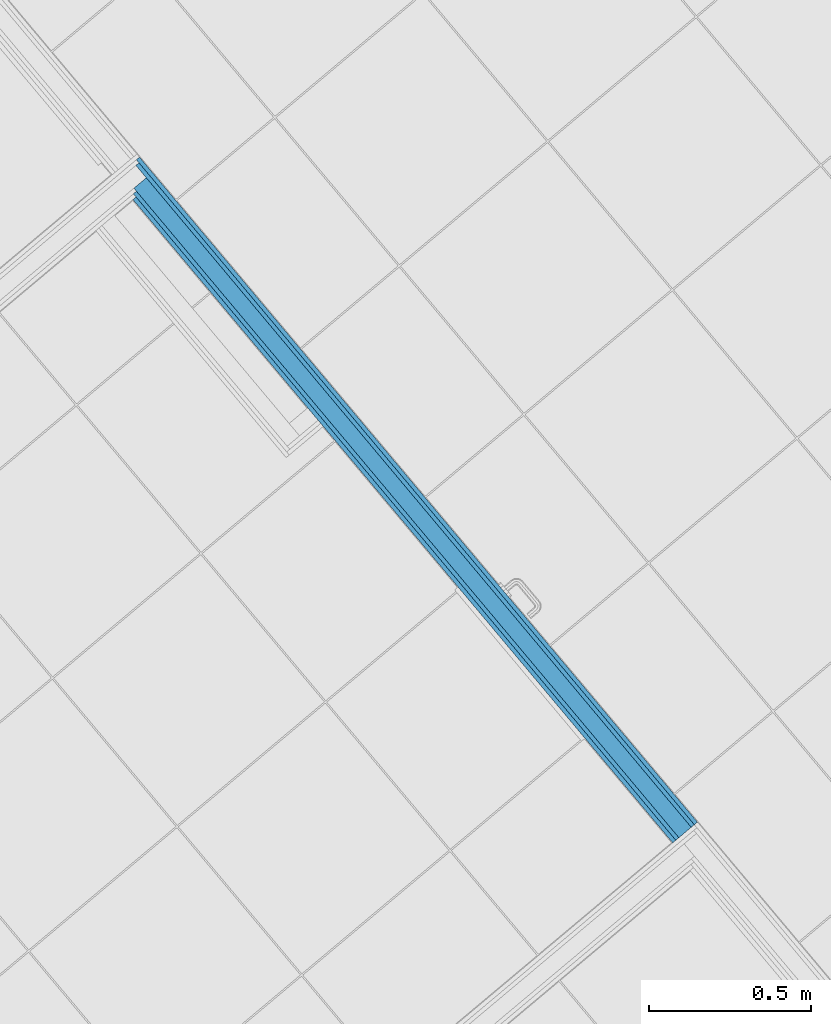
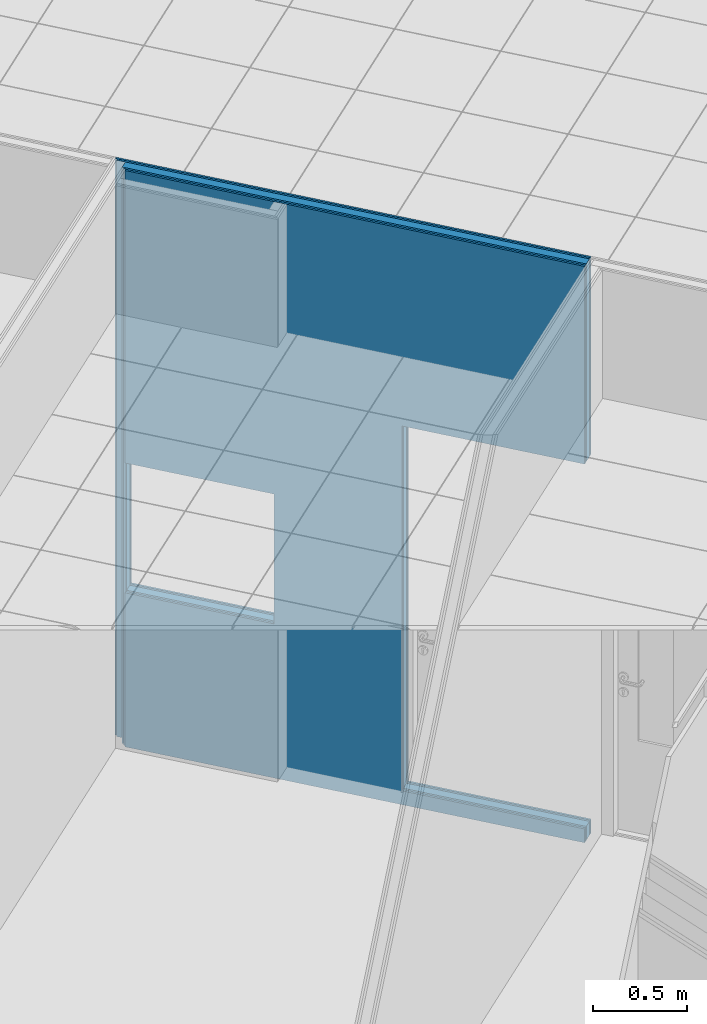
# One storey, part 49 of 338: 5 building element parts, 2 openings, 1 element without a shape of its own.
"""IFC2X3 building model written with IfcOpenShell, lengths in millimetres."""

from ifc_helpers import new_model, entity, si_unit, converted_unit, derived_unit, money_unit, direction, frame, origin_with_axes, place, context, subcontext, project, spatial, faceted_brep, material, type_object, element, aggregate, save


model = new_model("IFC2X3")

# Units and contexts
model_context = context("Model", 3, precision=0.01, world=origin_with_axes(), true_north=direction((0.0, 1.0)))
plan_context = context("Plan", 3, precision=0.01, world=origin_with_axes(), true_north=direction((0.0, 1.0)))
body_context = subcontext(model_context, "Body", "Model", "MODEL_VIEW")
ifc_project = project(units=[si_unit("LENGTHUNIT", "METRE", prefix="MILLI"), si_unit("AREAUNIT", "SQUARE_METRE"), si_unit("VOLUMEUNIT", "CUBIC_METRE"), converted_unit("PLANEANGLEUNIT", "DEGREE", entity("IfcPlaneAngleMeasure", 0.0174532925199), si_unit("PLANEANGLEUNIT", "RADIAN"), dimensions=[0, 0, 0, 0, 0, 0, 0]), money_unit("EUR"), converted_unit("TIMEUNIT", "Year", entity("IfcTimeMeasure", 31556926.0), si_unit("TIMEUNIT", "SECOND"), dimensions=[0, 0, 1, 0, 0, 0, 0]), si_unit("MASSUNIT", "GRAM", prefix="KILO"), si_unit("THERMODYNAMICTEMPERATUREUNIT", "DEGREE_CELSIUS"), si_unit("LUMINOUSINTENSITYUNIT", "LUMEN"), si_unit("ENERGYUNIT", "JOULE", prefix="MEGA"), derived_unit("THERMALCONDUCTANCEUNIT", [(si_unit("POWERUNIT", "WATT"), 1), (si_unit("LENGTHUNIT", "METRE"), -1), (si_unit("THERMODYNAMICTEMPERATUREUNIT", "KELVIN"), -1)]), derived_unit("SPECIFICHEATCAPACITYUNIT", [(si_unit("ENERGYUNIT", "JOULE"), 1), (si_unit("MASSUNIT", "GRAM", prefix="KILO"), -1), (si_unit("THERMODYNAMICTEMPERATUREUNIT", "KELVIN"), -1)]), derived_unit("MASSDENSITYUNIT", [(si_unit("MASSUNIT", "GRAM", prefix="KILO"), 1), (si_unit("VOLUMEUNIT", "CUBIC_METRE"), -1)])], contexts=[model_context, plan_context])

# Site, building, storey
site_placement = place(None, origin_with_axes())
site = spatial("IfcSite", under=ifc_project, at=site_placement, Name="Fortuinstraat Woensdrecht", CompositionType="ELEMENT")
building_placement = place(site_placement, origin_with_axes())
building = spatial("IfcBuilding", under=site, at=building_placement, Name="IKC Fortuna", CompositionType="ELEMENT")
storey_placement = place(building_placement, origin_with_axes())
storey = spatial("IfcBuildingStorey", under=building, at=storey_placement, Name="00 begane grond", CompositionType="ELEMENT", Elevation=0.0)

# Wall, openings, building element parts
wall_type = type_object("IfcWallType", Name="MS100 2.50.2A 100", PredefinedType="NOTDEFINED")
wall_placement = place(storey_placement, frame((11231.4886538, -6617.81216401, 1360.0), z_axis=(0.0, 0.0, 1.0), x_axis=(-0.642787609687, 0.766044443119, 0.0)))
wall = element("IfcWall", 1, at=wall_placement, inside=storey, type_object=wall_type, Name="22_Wand_Binnenwand")
opening_1_placement = place(wall_placement, frame((517.0, 0.0, 90.0), z_axis=(0.0, 0.0, 1.0), x_axis=(1.0, 0.0, 0.0)))
element("IfcOpeningElement", 2, at=opening_1_placement, cuts=wall, Name="32_Deur_h.01c", context=body_context, shape_type="Brep", body=[
    faceted_brep([(-517.0, 100.0, 2367.0), (-517.0, 100.0, 0.0), (-517.0, -200.0, 0.0), (-517.0, -200.0, 2367.0), (517.0, 100.0, 2367.0), (517.0, 100.0, 0.0), (517.0, -200.0, 0.0), (517.0, -200.0, 2367.0)], [[[0, 1, 2, 3]], [[0, 4, 5, 1]], [[1, 5, 6, 2]], [[3, 2, 6, 7]], [[4, 0, 3, 7]], [[5, 4, 7, 6]]]),
])
opening_2_placement = place(wall_placement, frame((12288.9999789, 4349.97180896, -1360.0), z_axis=(0.0, 0.0, 1.0), x_axis=(-0.642787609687, -0.766044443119, 0.0)))
element("IfcOpeningElement", 3, at=opening_2_placement, cuts=wall, Name="_Lege opening_Opening-x", context=body_context, shape_type="Brep", body=[
    faceted_brep([(12979.2788683, -2856.46196845, 2360.0), (12979.2788683, -2856.46196845, 3202.0), (7735.90822489, -7256.17234145, 3202.0), (7735.90822489, -7256.17234145, 2360.0), (12979.2788683, -1757.30903083, 2360.0), (12979.2788683, -1757.30903083, 3202.0), (7735.90822489, -6157.01940383, 3202.0), (7735.90822489, -6157.01940383, 2360.0)], [[[0, 1, 2, 3]], [[0, 4, 5, 1]], [[1, 5, 6, 2]], [[3, 2, 6, 7]], [[4, 0, 3, 7]], [[5, 4, 7, 6]]]),
])
ifc_material_1 = material(Name="Gipsplaat")
building_element_part_1_placement = place(wall_placement, origin_with_axes())
building_element_part_1 = element("IfcBuildingElementPart", 4, at=building_element_part_1_placement, material=ifc_material_1, Name="Gipsplaat", context=body_context, shape_type="Brep", body=[
    faceted_brep([(0.0, 100.0, 2457.0), (0.0, 87.5, 2457.0), (0.0, 87.5, 3740.0), (0.0, 100.0, 3740.0), (1034.0, 87.5, 2457.0), (1034.0, 100.0, 2457.0), (1034.0, 87.5, 90.0), (0.0, 87.5, 90.0), (0.0, 87.5, 0.0), (2599.90352174, 87.5, 0.0), (2599.90352174, 87.5, 1000.0), (1757.90352174, 87.5, 1000.0), (1757.90352174, 87.5, 1842.0), (2599.90352174, 87.5, 1842.0), (2599.90352174, 87.5, 3740.0), (2599.90352174, 100.0, 3740.0), (2599.90352174, 100.0, 1842.0), (1757.90352174, 100.0, 1842.0), (1757.90352174, 100.0, 1000.0), (2599.90352174, 100.0, 1000.0), (2599.90352174, 100.0, 0.0), (0.0, 100.0, 0.0), (0.0, 100.0, 90.0), (1034.0, 100.0, 90.0)], [[[0, 1, 2, 3]], [[4, 1, 0, 5]], [[6, 7, 8, 9, 10, 11, 12, 13, 14, 2, 1, 4]], [[3, 2, 14, 15]], [[5, 0, 3, 15, 16, 17, 18, 19, 20, 21, 22, 23]], [[6, 4, 5, 23]], [[22, 7, 6, 23]], [[7, 22, 21, 8]], [[8, 21, 20, 9]], [[19, 10, 9, 20]], [[10, 19, 18, 11]], [[11, 18, 17, 12]], [[12, 17, 16, 13]], [[14, 13, 16, 15]]]),
])
building_element_part_2_placement = place(wall_placement, origin_with_axes())
building_element_part_2 = element("IfcBuildingElementPart", 5, at=building_element_part_2_placement, material=ifc_material_1, Name="Gipsplaat", context=body_context, shape_type="Brep", body=[
    faceted_brep([(0.0, 87.5, 2457.0), (0.0, 75.0, 2457.0), (0.0, 75.0, 3740.0), (0.0, 87.5, 3740.0), (1034.0, 75.0, 2457.0), (1034.0, 87.5, 2457.0), (1034.0, 75.0, 90.0), (0.0, 75.0, 90.0), (0.0, 75.0, 0.0), (2612.40352174, 75.0, 0.0), (2612.40352174, 75.0, 3740.0), (1757.90352174, 75.0, 1000.0), (1757.90352174, 75.0, 1842.0), (2599.90352174, 75.0, 1842.0), (2599.90352174, 75.0, 1000.0), (2612.40352174, 87.5, 3740.0), (2612.40352174, 87.5, 0.0), (0.0, 87.5, 0.0), (0.0, 87.5, 90.0), (1034.0, 87.5, 90.0), (2599.90352174, 87.5, 1842.0), (1757.90352174, 87.5, 1842.0), (1757.90352174, 87.5, 1000.0), (2599.90352174, 87.5, 1000.0)], [[[0, 1, 2, 3]], [[4, 1, 0, 5]], [[6, 7, 8, 9, 10, 2, 1, 4], [11, 12, 13, 14]], [[3, 2, 10, 15]], [[5, 0, 3, 15, 16, 17, 18, 19], [20, 21, 22, 23]], [[6, 4, 5, 19]], [[18, 7, 6, 19]], [[7, 18, 17, 8]], [[8, 17, 16, 9]], [[15, 10, 9, 16]], [[11, 22, 21, 12]], [[12, 21, 20, 13]], [[13, 20, 23, 14]], [[14, 23, 22, 11]]]),
])
ifc_material_2 = material(Name="Isolatie - Steenwol LSW")
building_element_part_3_placement = place(wall_placement, origin_with_axes())
building_element_part_3 = element("IfcBuildingElementPart", 6, at=building_element_part_3_placement, material=ifc_material_2, Name="Isolatie - Steenwol LSW", context=body_context, shape_type="Brep", body=[
    faceted_brep([(0.0, 75.0, 2457.0), (0.0, 25.0, 2457.0), (0.0, 25.0, 3740.0), (0.0, 75.0, 3740.0), (1034.0, 25.0, 2457.0), (1034.0, 75.0, 2457.0), (1034.0, 25.0, 90.0), (0.0, 25.0, 90.0), (0.0, 25.0, 0.0), (2624.90352174, 25.0, 0.0), (2624.90352174, 25.0, 3740.0), (1757.90352174, 25.0, 1000.0), (1757.90352174, 25.0, 1842.0), (2599.90352174, 25.0, 1842.0), (2599.90352174, 25.0, 1000.0), (2624.90352174, 75.0, 3740.0), (2624.90352174, 75.0, 0.0), (0.0, 75.0, 0.0), (0.0, 75.0, 90.0), (1034.0, 75.0, 90.0), (2599.90352174, 75.0, 1842.0), (1757.90352174, 75.0, 1842.0), (1757.90352174, 75.0, 1000.0), (2599.90352174, 75.0, 1000.0)], [[[0, 1, 2, 3]], [[4, 1, 0, 5]], [[6, 7, 8, 9, 10, 2, 1, 4], [11, 12, 13, 14]], [[3, 2, 10, 15]], [[5, 0, 3, 15, 16, 17, 18, 19], [20, 21, 22, 23]], [[6, 4, 5, 19]], [[18, 7, 6, 19]], [[7, 18, 17, 8]], [[8, 17, 16, 9]], [[15, 10, 9, 16]], [[11, 22, 21, 12]], [[12, 21, 20, 13]], [[13, 20, 23, 14]], [[14, 23, 22, 11]]]),
])
building_element_part_4_placement = place(wall_placement, origin_with_axes())
building_element_part_4 = element("IfcBuildingElementPart", 7, at=building_element_part_4_placement, material=ifc_material_1, Name="Gipsplaat", context=body_context, shape_type="Brep", body=[
    faceted_brep([(0.0, 25.0, 2457.0), (0.0, 12.5, 2457.0), (0.0, 12.5, 3740.0), (0.0, 25.0, 3740.0), (1034.0, 12.5, 2457.0), (1034.0, 25.0, 2457.0), (1034.0, 12.5, 90.0), (0.0, 12.5, 90.0), (0.0, 12.5, 0.0), (2674.90352174, 12.5, 0.0), (2674.90352174, 12.5, 3740.0), (2599.90352174, 12.5, 1000.0), (1757.90352174, 12.5, 1000.0), (1757.90352174, 12.5, 1842.0), (2599.90352174, 12.5, 1842.0), (2674.90352174, 25.0, 3740.0), (2674.90352174, 25.0, 0.0), (0.0, 25.0, 0.0), (0.0, 25.0, 90.0), (1034.0, 25.0, 90.0), (2599.90352174, 25.0, 1000.0), (2599.90352174, 25.0, 1842.0), (1757.90352174, 25.0, 1842.0), (1757.90352174, 25.0, 1000.0)], [[[0, 1, 2, 3]], [[4, 1, 0, 5]], [[6, 7, 8, 9, 10, 2, 1, 4], [11, 12, 13, 14]], [[15, 3, 2, 10]], [[5, 0, 3, 15, 16, 17, 18, 19], [20, 21, 22, 23]], [[6, 4, 5, 19]], [[18, 7, 6, 19]], [[7, 18, 17, 8]], [[9, 8, 17, 16]], [[16, 15, 10, 9]], [[12, 11, 20, 23]], [[13, 12, 23, 22]], [[14, 13, 22, 21]], [[11, 14, 21, 20]]]),
])
building_element_part_5_placement = place(wall_placement, origin_with_axes())
building_element_part_5 = element("IfcBuildingElementPart", 8, at=building_element_part_5_placement, material=ifc_material_1, Name="Gipsplaat", context=body_context, shape_type="Brep", body=[
    faceted_brep([(0.0, 12.5, 2457.0), (0.0, 0.0, 2457.0), (0.0, 0.0, 3740.0), (0.0, 12.5, 3740.0), (1034.0, 0.0, 2457.0), (1034.0, 12.5, 2457.0), (1034.0, 0.0, 90.0), (0.0, 0.0, 90.0), (0.0, 0.0, 0.0), (2687.40352174, 0.0, 0.0), (2687.40352174, 0.0, 3740.0), (2599.90352174, 0.0, 1000.0), (1757.90352174, 0.0, 1000.0), (1757.90352174, 0.0, 1842.0), (2599.90352174, 0.0, 1842.0), (2687.40352174, 12.5, 3740.0), (2687.40352174, 12.5, 0.0), (0.0, 12.5, 0.0), (0.0, 12.5, 90.0), (1034.0, 12.5, 90.0), (2599.90352174, 12.5, 1000.0), (2599.90352174, 12.5, 1842.0), (1757.90352174, 12.5, 1842.0), (1757.90352174, 12.5, 1000.0)], [[[0, 1, 2, 3]], [[4, 1, 0, 5]], [[6, 7, 8, 9, 10, 2, 1, 4], [11, 12, 13, 14]], [[15, 3, 2, 10]], [[5, 0, 3, 15, 16, 17, 18, 19], [20, 21, 22, 23]], [[6, 4, 5, 19]], [[18, 7, 6, 19]], [[7, 18, 17, 8]], [[9, 8, 17, 16]], [[16, 15, 10, 9]], [[12, 11, 20, 23]], [[13, 12, 23, 22]], [[14, 13, 22, 21]], [[11, 14, 21, 20]]]),
])
aggregate(wall, [building_element_part_1, building_element_part_2, building_element_part_3, building_element_part_4, building_element_part_5])

save(model, "model.ifc")
